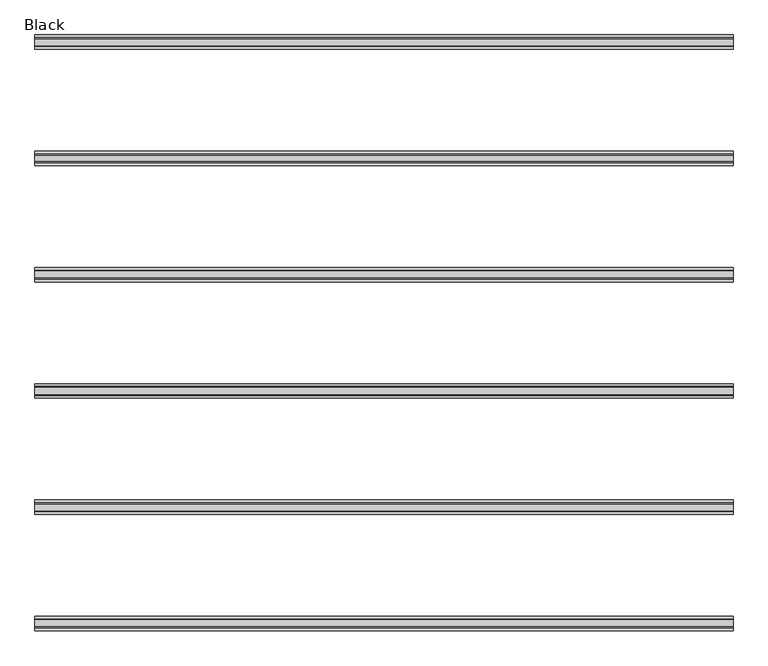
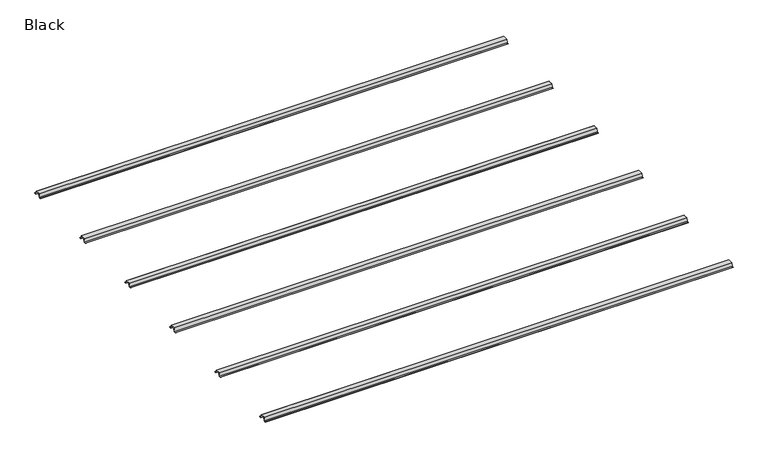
"""IFC4 building model written with IfcOpenShell, lengths in millimetres: proxy geometry, MountingTrack_Soffit_Modinex : Black."""

from ifc_helpers import new_model, si_unit, frame, origin, place, context, project, spatial, polyline, outline, extrude, source, transform, mapped, element, save


def black_aaa2e978(model_context):
    return source(origin(), model_context, "Body", "SweptSolid", [
        extrude(outline(polyline([(1062.0, 0.0), (1050.0, 0.0), (1050.0, 1.0), (1061.2101413, 1.0), (1066.2101413, 22.0), (1095.7898587, 22.0), (1100.7898587, 1.0), (1112.0, 1.0), (1112.0, 0.0), (1100.0, 0.0), (1095.0, 21.0), (1067.0, 21.0), (1062.0, 0.0)])), frame((-1500.0, 0.0, 0.0), z_axis=(1.0, 0.0, 0.0), x_axis=(0.0, 1.0, 0.0)), (0.0, 0.0, 1.0), 3000.0),
        extrude(outline(polyline([(562.0, 0.0), (550.0, 0.0), (550.0, 1.0), (561.2101413, 1.0), (566.2101413, 22.0), (595.7898587, 22.0), (600.7898587, 1.0), (612.0, 1.0), (612.0, 0.0), (600.0, 0.0), (595.0, 21.0), (567.0, 21.0), (562.0, 0.0)])), frame((-1500.0, 0.0, 0.0), z_axis=(1.0, 0.0, 0.0), x_axis=(0.0, 1.0, 0.0)), (0.0, 0.0, 1.0), 3000.0),
        extrude(outline(polyline([(62.0, 0.0), (50.0, 0.0), (50.0, 1.0), (61.2101413, 1.0), (66.2101413, 22.0), (95.7898587, 22.0), (100.7898587, 1.0), (112.0, 1.0), (112.0, 0.0), (100.0, 0.0), (95.0, 21.0), (67.0, 21.0), (62.0, 0.0)])), frame((-1500.0, 0.0, 0.0), z_axis=(1.0, 0.0, 0.0), x_axis=(0.0, 1.0, 0.0)), (0.0, 0.0, 1.0), 3000.0),
        extrude(outline(polyline([(-438.0, 0.0), (-450.0, 0.0), (-450.0, 1.0), (-438.7898587, 1.0), (-433.7898587, 22.0), (-404.2101413, 22.0), (-399.2101413, 1.0), (-388.0, 1.0), (-388.0, 0.0), (-400.0, 0.0), (-405.0, 21.0), (-433.0, 21.0), (-438.0, 0.0)])), frame((-1500.0, 0.0, 0.0), z_axis=(1.0, 0.0, 0.0), x_axis=(0.0, 1.0, 0.0)), (0.0, 0.0, 1.0), 3000.0),
        extrude(outline(polyline([(-938.0, 0.0), (-950.0, 0.0), (-950.0, 1.0), (-938.7898587, 1.0), (-933.7898587, 22.0), (-904.2101413, 22.0), (-899.2101413, 1.0), (-888.0, 1.0), (-888.0, 0.0), (-900.0, 0.0), (-905.0, 21.0), (-933.0, 21.0), (-938.0, 0.0)])), frame((-1500.0, 0.0, 0.0), z_axis=(1.0, 0.0, 0.0), x_axis=(0.0, 1.0, 0.0)), (0.0, 0.0, 1.0), 3000.0),
        extrude(outline(polyline([(-1438.0, 0.0), (-1450.0, 0.0), (-1450.0, 1.0), (-1438.7898587, 1.0), (-1433.7898587, 22.0), (-1404.2101413, 22.0), (-1399.2101413, 1.0), (-1388.0, 1.0), (-1388.0, 0.0), (-1400.0, 0.0), (-1405.0, 21.0), (-1433.0, 21.0), (-1438.0, 0.0)])), frame((-1500.0, 0.0, 0.0), z_axis=(1.0, 0.0, 0.0), x_axis=(0.0, 1.0, 0.0)), (0.0, 0.0, 1.0), 3000.0),
    ])


if __name__ == "__main__":
    model = new_model("IFC4")
    model_context = context("Model", 3, world=origin())
    ifc_project = project(units=[si_unit("LENGTHUNIT", "METRE", prefix="MILLI")], contexts=[model_context])
    site = spatial("IfcSite", under=ifc_project)
    building = spatial("IfcBuilding", under=site)
    placement = place(None, origin())
    black_shape = black_aaa2e978(model_context)
    element("IfcBuildingElementProxy", 1, Name="MountingTrack_Soffit_Modinex : Black", ObjectType="MountingTrack_Soffit_Modinex : Black", at=placement, inside=building, context=model_context, shape_type="MappedRepresentation", body=[
        mapped(black_shape, transform((0.0, 0.0, 0.0), x_axis=(1.0, 0.0, 0.0), y_axis=(0.0, 1.0, 0.0), z_axis=(0.0, 0.0, 1.0))),
    ])
    save(model, "model.ifc")
